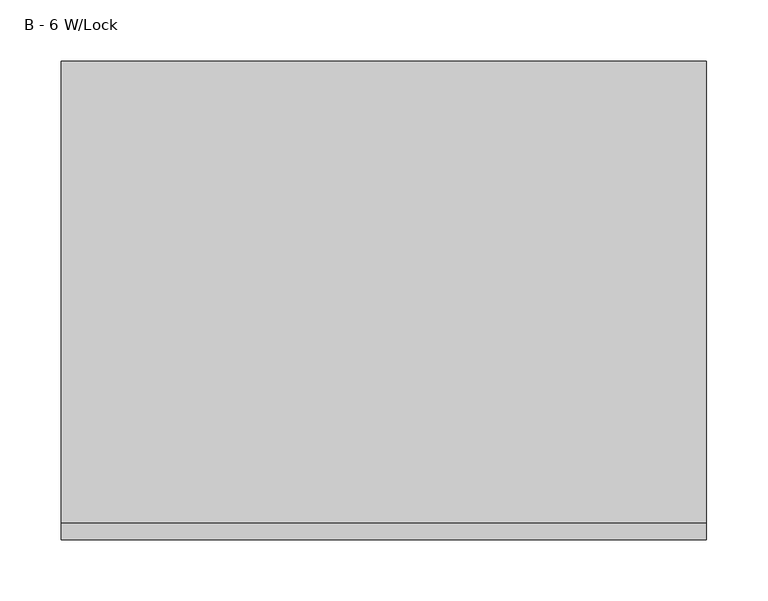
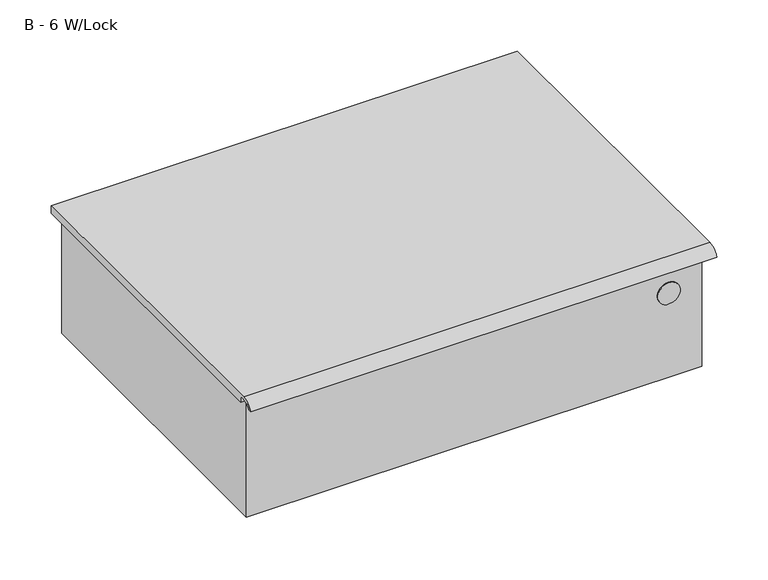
"""IFC4 building model written with IfcOpenShell, lengths in millimetres: furniture geometry, HermanMiller_CoStruc_CO549_LockedDrawerWithLid : B - 6 W/Lock."""

from ifc_helpers import new_model, si_unit, point, frame, frame_2d, origin, place, context, project, spatial, polyline, circle_curve, trimmed, segment, composite_curve, outline, extrude, source, transform, mapped, element, save


def b_6_w_lock_8f43cd74(model_context):
    return source(origin(), model_context, "Body", "SweptSolid", [
        extrude(outline(composite_curve([segment(polyline([(195.2625, 715.9752), (195.2625, 706.4502), (-176.2125, 706.4502), (-176.2125, 712.7573341), (-180.4714815, 712.7573341)]), True, "CONTINUOUS"), segment(trimmed(circle_curve(frame_2d((-181.6070544, 701.4241859)), 11.3898979), [point((-180.4714815, 712.7573341))], [point((-191.8280601, 706.4502))], True, "CARTESIAN"), True, "CONTINUOUS"), segment(polyline([(-191.8280601, 706.4502), (-195.2625, 706.4502)]), True, "CONTINUOUS"), segment(trimmed(circle_curve(frame_2d((-181.6070544, 701.4241859)), 14.5510141), [point((-195.2625, 706.4502))], [point((-181.6070544, 715.9752))], False, "CARTESIAN"), True, "CONTINUOUS"), segment(polyline([(-181.6070544, 715.9752), (195.2625, 715.9752)]), True, "CONTINUOUS")], self_intersect=False)), frame((-263.4576517, 0.0, 0.0), z_axis=(1.0, 0.0, 0.0), x_axis=(0.0, 1.0, 0.0)), (0.0, 0.0, 1.0), 527.05),
        extrude(outline(polyline([(257.2423483, -176.2125), (-257.1076517, -176.2125), (-257.1076517, 185.7375), (257.2423483, 185.7375), (257.2423483, -176.2125)])), frame((0.0, 0.0, 566.7502), z_axis=(0.0, 0.0, 1.0), x_axis=(1.0, 0.0, 0.0)), (0.0, 0.0, 1.0), 139.7),
        extrude(outline(composite_curve([segment(trimmed(circle_curve(frame_2d((668.16732, 219.4281174)), 12.7), [point((655.46732, 219.4281174))], [point((680.86732, 219.4281174))], False, "CARTESIAN"), True, "CONTINUOUS"), segment(trimmed(circle_curve(frame_2d((668.16732, 219.4281174)), 12.7), [point((680.86732, 219.4281174))], [point((655.46732, 219.4281174))], False, "CARTESIAN"), True, "CONTINUOUS")], self_intersect=False)), frame((0.0, -177.8, 0.0), z_axis=(0.0, 1.0, 0.0), x_axis=(0.0, 0.0, 1.0)), (0.0, 0.0, 1.0), 1.5875),
    ])


if __name__ == "__main__":
    model = new_model("IFC4")
    model_context = context("Model", 3, world=origin())
    ifc_project = project(units=[si_unit("LENGTHUNIT", "METRE", prefix="MILLI")], contexts=[model_context])
    site = spatial("IfcSite", under=ifc_project)
    building = spatial("IfcBuilding", under=site)
    placement = place(None, origin())
    b_6_w_lock_shape = b_6_w_lock_8f43cd74(model_context)
    element("IfcFurniture", 1, ObjectType="HermanMiller_CoStruc_CO549_LockedDrawerWithLid : B - 6 W/Lock", at=placement, inside=building, context=model_context, shape_type="MappedRepresentation", body=[
        mapped(b_6_w_lock_shape, transform((0.0, 0.0, 0.0), x_axis=(1.0, 0.0, 0.0), y_axis=(0.0, 1.0, 0.0), z_axis=(0.0, 0.0, 1.0))),
    ])
    save(model, "model.ifc")
